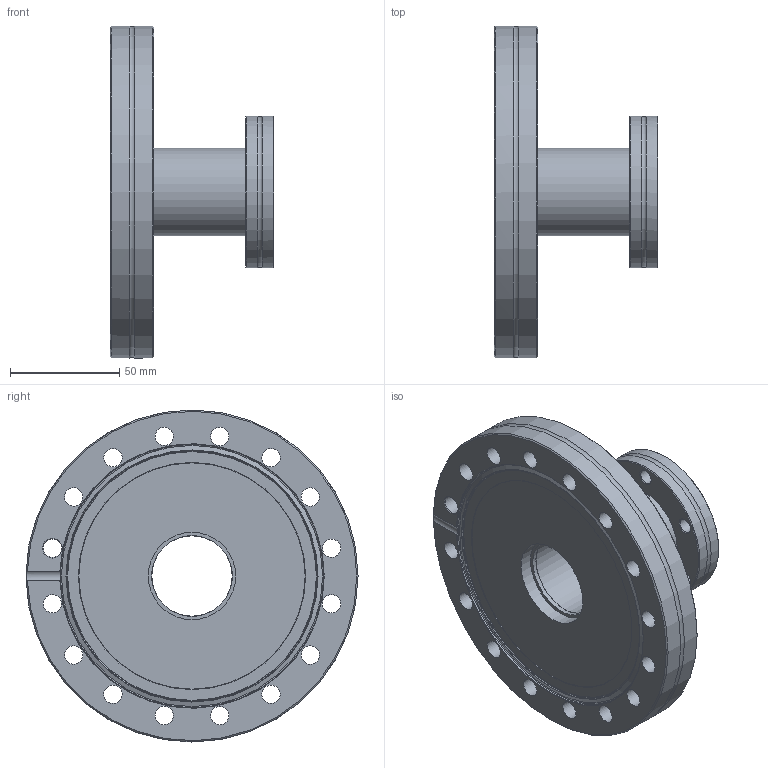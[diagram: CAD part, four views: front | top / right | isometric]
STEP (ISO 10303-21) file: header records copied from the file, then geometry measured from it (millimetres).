
FILE_DESCRIPTION((''),'2;1');
FILE_NAME('W:\13785_CF_Global_Fit_Umsetzung\124_Reducer_CF\M213-225.stp','2010-09-01T13:13:11',('KAA'),(''),'Autodesk Inventor 2011','Autodesk Inventor 2011','');
FILE_SCHEMA(('AUTOMOTIVE_DESIGN { 1 0 10303 214 1 1 1 1 }'));
Length unit declared in the file: millimetre
Products named in the file (1): 213-225
Bounding box: 75 x 152 x 152 mm (x, y, z)
Volume: 346888.6 mm3; surface area: 80308 mm2
Topology: 1 solids, 1 shells, 88 faces, 222 edges, 145 vertices
Faces by surface type: cylinder 38, cone 28, plane 13, torus 9
Full cylindrical faces by diameter (mm): 6.8 x6, 8.4 x16, 36.8 x1, 37 x1, 39.5 x1, 40 x2, 40.3 x2, 41 x1, 48.1 x1, 48.3 x1, 69.5 x2, 152 x2
Entity records: 2349 total; most frequent: CARTESIAN_POINT 403, DIRECTION 398, ORIENTED_EDGE 252, EDGE_LOOP 212, AXIS2_PLACEMENT_3D 197, EDGE_CURVE 126, FACE_BOUND 124, VERTEX_POINT 118
